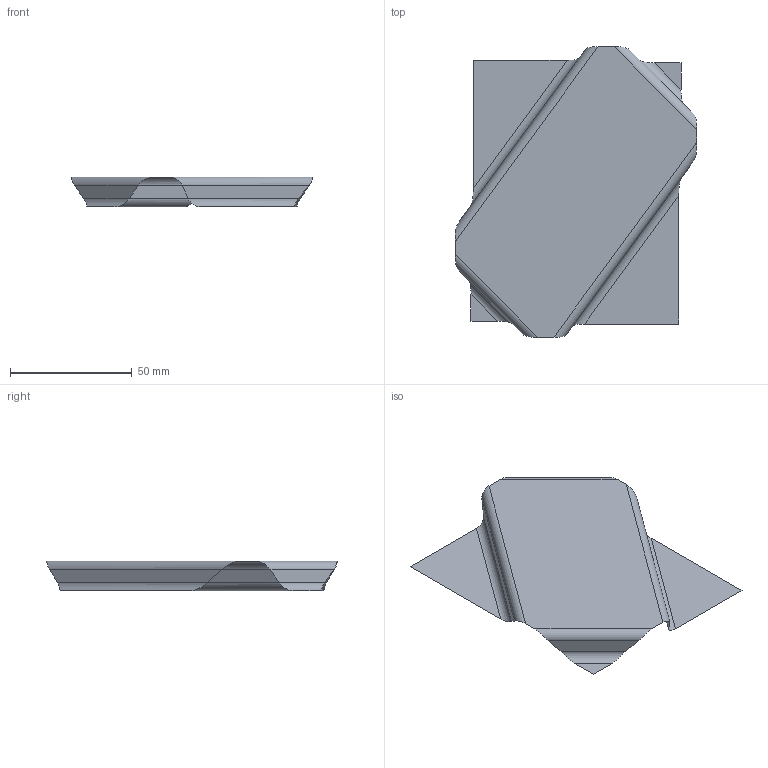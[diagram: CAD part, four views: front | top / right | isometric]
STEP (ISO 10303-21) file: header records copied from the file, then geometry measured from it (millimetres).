
FILE_DESCRIPTION(('CATIA V5 STEP Exchange'),'2;1');
FILE_NAME('C:\_Andres\UNIVERSIDAD\IQS\ASIGNATURAS\DAO\EXF\EXF-15161c\1original\Formosa_Marín_Ej03-chapa_v9.stp','2016-03-04T16:55:48+00:00',('none'),('none'),'CATIA Version 5 Release 20 SP 1 (IN-10)','CATIA V5 STEP AP203','none');
FILE_SCHEMA(('CONFIG_CONTROL_DESIGN'));
Length unit declared in the file: millimetre
Products named in the file (1): Formosa_Marín_Ej03-chapa_v9
Bounding box: 99.01 x 119.01 x 12.29 mm (x, y, z)
Surface area: 11820.7 mm2 (no closed solid volume)
Topology: 0 solids, 1 shells, 17 faces, 52 edges, 36 vertices
Faces by surface type: plane 9, cylinder 8
Entity records: 623 total; most frequent: CARTESIAN_POINT 202, ORIENTED_EDGE 68, DIRECTION 57, EDGE_CURVE 52, VERTEX_POINT 36, B_SPLINE_CURVE_WITH_KNOTS 31, VECTOR 21, LINE 21
